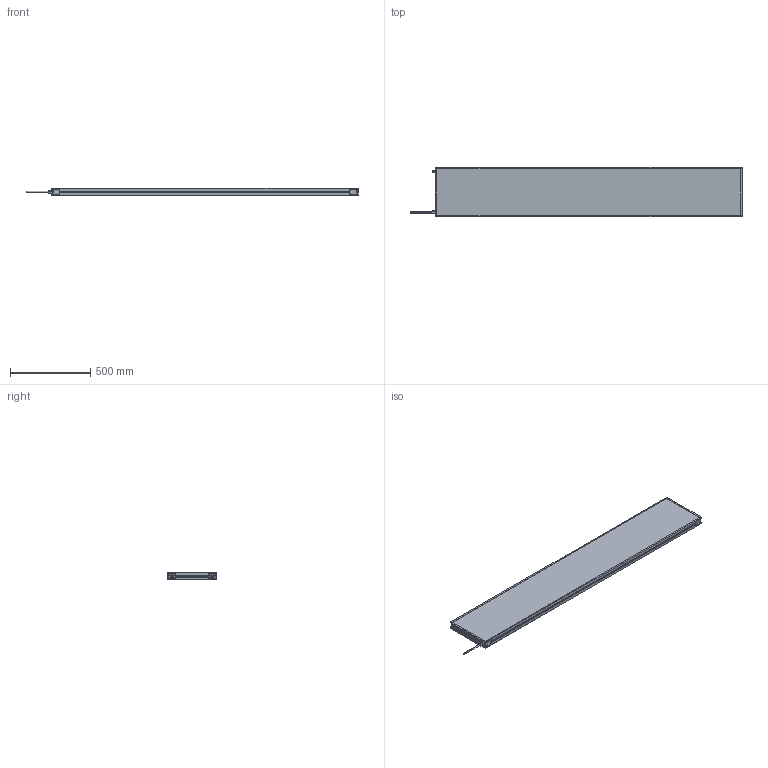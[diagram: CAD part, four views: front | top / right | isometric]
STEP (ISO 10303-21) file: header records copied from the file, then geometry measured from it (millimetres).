
FILE_DESCRIPTION (( 'STEP AP214' ), '1' );
FILE_NAME ('MBACK-xxxx-xxx-M1A2_CLIENT300x1900.STEP', '2022-04-01T11:33:27', ( '' ), ( '' ), 'SwSTEP 2.0', 'SolidWorks 2020', '' );
FILE_SCHEMA (( 'AUTOMOTIVE_DESIGN' ));
Length unit declared in the file: millimetre
Products named in the file (1): MBACK-xxxx-xxx-M1A2_CLIENT300x1900
Bounding box: 2067.4 x 308 x 45.5 mm (x, y, z)
Volume: 24438069.5 mm3; surface area: 1475733.8 mm2
Topology: 1 solids, 1 shells, 470 faces, 1210 edges, 804 vertices
Faces by surface type: plane 265, cylinder 117, bspline 80, cone 8
Entity records: 18046 total; most frequent: CARTESIAN_POINT 6837, ORIENTED_EDGE 2420, DIRECTION 2082, EDGE_CURVE 1210, VERTEX_POINT 804, LINE 800, VECTOR 800, AXIS2_PLACEMENT_3D 641
